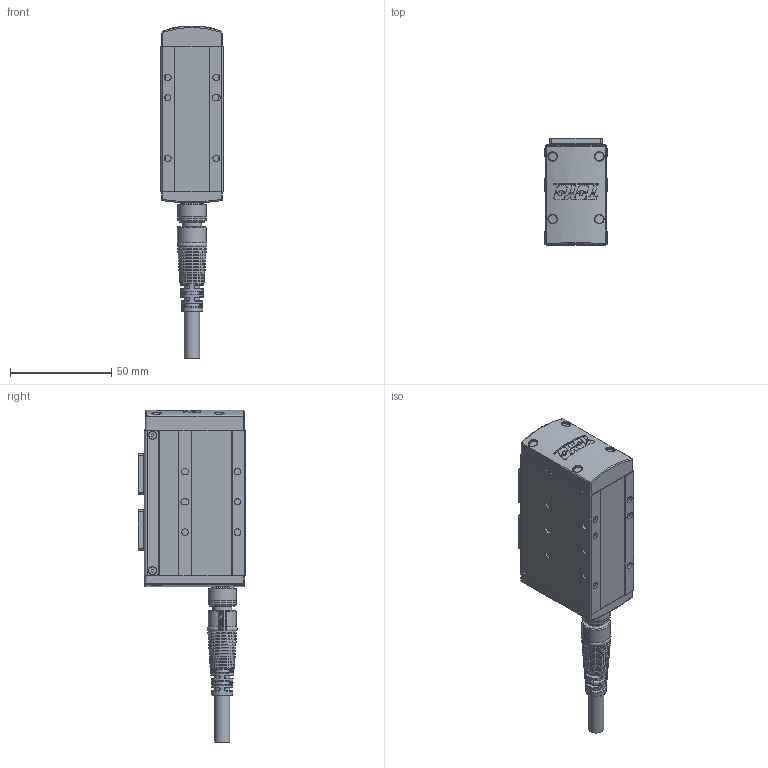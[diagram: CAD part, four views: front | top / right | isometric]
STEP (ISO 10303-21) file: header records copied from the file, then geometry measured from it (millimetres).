
FILE_DESCRIPTION(/* description */ ('STEP AP214'),/* implementation_level */ '2;1');
FILE_NAME(/* name */ 'D:\2025.02.25 帶電匯整給泊舟\3. CHS2系列\CHS2B-S20-180.stp',/* time_stamp */ '2025-02-25T17:32:29+08:00',/* author */ ('T10033'),/* organization */ (''),/* preprocessor_version */ 'ST-DEVELOPER v18.1',/* originating_system */ 'Autodesk Inventor 2020',/* authorisation */ '');
FILE_SCHEMA (('CONFIG_CONTROL_DESIGN'));
Products named in the file (8): CHS2B-S20; 22012-000289_M2L6內六角; 12004-000153-02; 22013-000052_徑3L5定位銷; 22012-001387_M2.5L6內六角; 慶陞M12金屬頭; M12-14PIN 線端180度接頭-05中繼線; T34WTYWS34T_Shrinkwrap_1
Assembly tree (15 placements, depth 2):
  CHS2B-S20
    22012-000289_M2L6內六角  x2
    12004-000153-02  x2
    22013-000052_徑3L5定位銷  x4
    22012-001387_M2.5L6內六角  x4
    慶陞M12金屬頭
    M12-14PIN 線端180度接頭-05中繼線
    T34WTYWS34T_Shrinkwrap_1
Bounding box: 31 x 53 x 164.12 mm (x, y, z)
Volume: 138048.7 mm3; surface area: 31509.5 mm2
Topology: 32 solids, 32 shells, 2096 faces, 5818 edges, 3914 vertices
Faces by surface type: plane 1016, cylinder 439, cone 418, bspline 166, torus 53, sphere 4
Full cylindrical faces by diameter (mm): 0.6 x14, 0.65 x14, 0.8 x2, 1 x14, 2 x32, 2.5 x52, 2.6 x4, 3 x11, 3.3 x12, 3.8 x6, 4.5 x4, 4.8 x4, 7.5 x1, 8 x1, 8.9 x1, 9.5 x2, 9.6 x1, 10.5 x2, 11 x1, 11.2 x5, 12 x1, 13 x1, 13.8 x1, 14 x2, 16.482 x1
Entity records: 78981 total; most frequent: CARTESIAN_POINT 29987, DIRECTION 9989, ORIENTED_EDGE 9960, EDGE_CURVE 4980, AXIS2_PLACEMENT_3D 3806, VERTEX_POINT 3338, LINE 2377, VECTOR 2377
